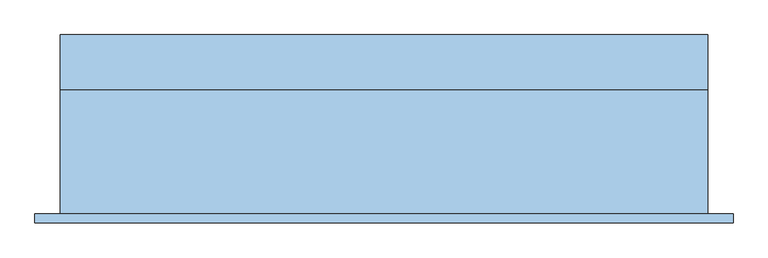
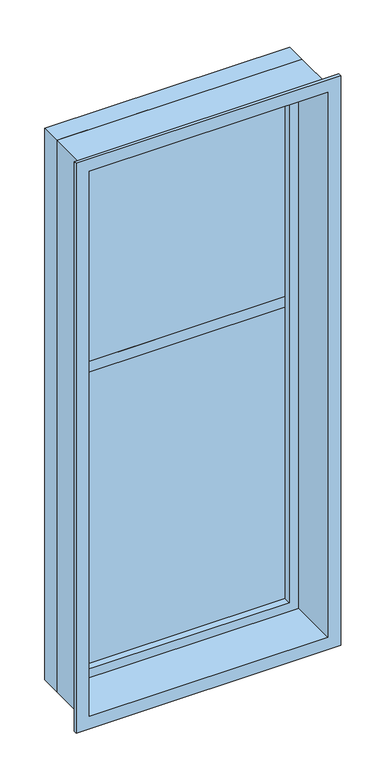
"""IFC4 building model written with IfcOpenShell, lengths in millimetres: window geometry, Vindu FKS 1x2-J : 11x26 FKS V3."""

from ifc_helpers import new_model, si_unit, frame, origin, place, context, project, spatial, polyline, outline, extrude, faceted_brep, source, transform, mapped, element, save


def window_942cbd03(model_context):
    return source(origin(), model_context, "Body", "SolidModel", [
        extrude(outline(polyline([(2115.0, -506.0), (2115.0, 506.0), (2140.0, 506.0), (2165.0, 506.0), (2165.0, -506.0), (2115.0, -506.0)])), frame((0.0, 70.0, 0.0), z_axis=(0.0, 1.0, 0.0), x_axis=(0.0, 0.0, 1.0)), (0.0, 0.0, 1.0), 60.0),
        extrude(outline(polyline([(-506.0, 94.0), (506.0, 94.0), (506.0, 70.0), (-506.0, 70.0), (-506.0, 94.0)])), frame((0.0, 0.0, 729.0), z_axis=(0.0, 0.0, 1.0), x_axis=(1.0, 0.0, 0.0)), (0.0, 0.0, 1.0), 1386.0),
        extrude(outline(polyline([(-506.0, 94.0), (506.0, 94.0), (506.0, 70.0), (-506.0, 70.0), (-506.0, 94.0)])), frame((0.0, 0.0, 2165.0), z_axis=(0.0, 0.0, 1.0), x_axis=(1.0, 0.0, 0.0)), (0.0, 0.0, 1.0), 1076.0),
        faceted_brep([(-545.0, 130.0, 690.0), (-545.0, 38.0, 690.0), (-545.0, 38.0, 3280.0), (-545.0, 130.0, 3280.0), (-506.0, 70.0, 729.0), (-506.0, 130.0, 729.0), (-506.0, 130.0, 3241.0), (-506.0, 70.0, 3241.0), (-488.0, 38.0, 747.0), (-488.0, 70.0, 747.0), (-488.0, 70.0, 3223.0), (-488.0, 38.0, 3223.0), (545.0, 38.0, 3280.0), (545.0, 130.0, 3280.0), (506.0, 130.0, 3241.0), (506.0, 70.0, 3241.0), (488.0, 70.0, 3223.0), (488.0, 38.0, 3223.0), (545.0, 38.0, 690.0), (545.0, 130.0, 690.0), (506.0, 130.0, 729.0), (506.0, 70.0, 729.0), (488.0, 70.0, 747.0), (488.0, 38.0, 747.0)], [[[0, 1, 2, 3]], [[4, 5, 6, 7]], [[8, 9, 10, 11]], [[3, 2, 12, 13]], [[7, 6, 14, 15]], [[11, 10, 16, 17]], [[13, 12, 18, 19]], [[15, 14, 20, 21]], [[17, 16, 22, 23]], [[19, 18, 1, 0]], [[3, 13, 19, 0], [5, 20, 14, 6]], [[21, 20, 5, 4]], [[7, 15, 21, 4], [9, 22, 16, 10]], [[23, 22, 9, 8]], [[1, 18, 12, 2], [11, 17, 23, 8]]]),
        faceted_brep([(-545.0, -172.0, 690.0), (-545.0, 38.0, 690.0), (545.0, 38.0, 690.0), (545.0, -172.0, 690.0), (545.0, 38.0, 3280.0), (545.0, -172.0, 3280.0), (-545.0, 38.0, 3280.0), (530.0, 38.0, 3265.0), (-530.0, 38.0, 3265.0), (-530.0, 38.0, 705.0), (530.0, 38.0, 705.0), (588.0, -172.0, 647.0), (-588.0, -172.0, 647.0), (-588.0, -172.0, 3323.0), (588.0, -172.0, 3323.0), (-545.0, -172.0, 3280.0), (-588.0, -187.0, 647.0), (588.0, -187.0, 647.0), (588.0, -187.0, 3323.0), (-588.0, -187.0, 3323.0), (530.0, -187.0, 705.0), (-530.0, -187.0, 705.0), (-530.0, -187.0, 3265.0), (530.0, -187.0, 3265.0)], [[[0, 1, 2, 3]], [[3, 2, 4, 5]], [[2, 1, 6, 4], [7, 8, 9, 10]], [[11, 12, 13, 14], [5, 15, 0, 3]], [[16, 12, 11, 17]], [[17, 11, 14, 18]], [[18, 19, 16, 17], [20, 21, 22, 23]], [[9, 21, 20, 10]], [[10, 20, 23, 7]], [[15, 6, 1, 0]], [[19, 13, 12, 16]], [[8, 22, 21, 9]], [[5, 4, 6, 15]], [[18, 14, 13, 19]], [[7, 23, 22, 8]]]),
    ])


if __name__ == "__main__":
    model = new_model("IFC4")
    model_context = context("Model", 3, world=origin())
    ifc_project = project(units=[si_unit("LENGTHUNIT", "METRE", prefix="MILLI")], contexts=[model_context])
    site = spatial("IfcSite", under=ifc_project)
    building = spatial("IfcBuilding", under=site)
    placement = place(None, origin())
    window_shape = window_942cbd03(model_context)
    element("IfcWindow", 1, ObjectType="Vindu FKS 1x2-J : 11x26 FKS V3", at=placement, inside=building, context=model_context, shape_type="MappedRepresentation", body=[
        mapped(window_shape, transform((0.0, 0.0, 0.0), x_axis=(1.0, 0.0, 0.0), y_axis=(0.0, 1.0, 0.0), z_axis=(0.0, 0.0, 1.0))),
    ])
    save(model, "model.ifc")
